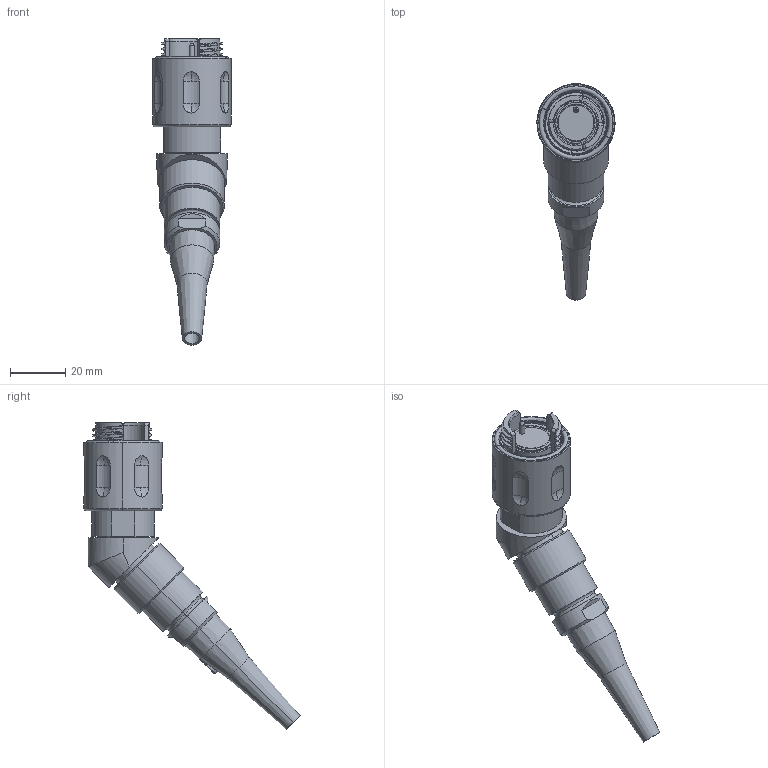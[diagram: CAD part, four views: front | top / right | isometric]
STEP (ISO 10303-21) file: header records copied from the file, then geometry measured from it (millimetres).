
FILE_DESCRIPTION (( 'STEP AP214' ), '1' );
FILE_NAME ('QMINI45S-PEXX-XXXX-SXX.STEP', '2025-05-22T22:05:08', ( '' ), ( '' ), 'SwSTEP 2.0', 'SolidWorks 2024', '' );
FILE_SCHEMA (( 'AUTOMOTIVE_DESIGN' ));
Length unit declared in the file: inch
Products named in the file (1): QMINI45S-PEXX-XXXX-SXX
Bounding box: 28.34 x 78.24 x 111.01 mm (x, y, z)
Volume: 37967.5 mm3; surface area: 15486.6 mm2
Topology: 1 solids, 2 shells, 289 faces, 708 edges, 450 vertices
Faces by surface type: cylinder 102, plane 65, cone 49, torus 29, sphere 24, bspline 20
Entity records: 11229 total; most frequent: CARTESIAN_POINT 4620, ORIENTED_EDGE 1416, DIRECTION 1354, EDGE_CURVE 708, AXIS2_PLACEMENT_3D 556, VERTEX_POINT 450, EDGE_LOOP 322, ADVANCED_FACE 289
